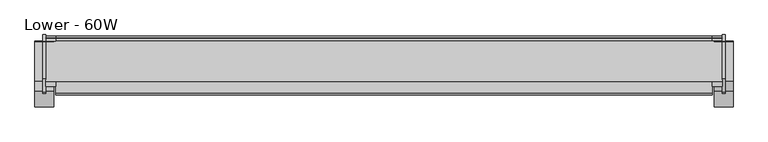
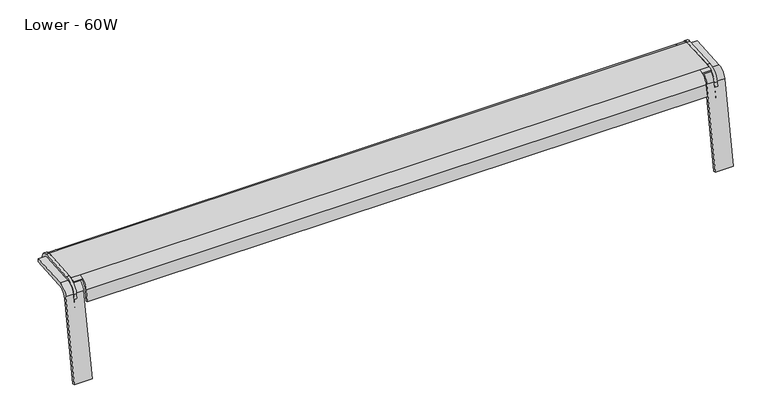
"""IFC4 building model written with IfcOpenShell, lengths in millimetres: furniture geometry, Steelcase Turnstone - Bivi - Accessories - Footshelf : Lower - 60W."""

from ifc_helpers import new_model, si_unit, point, frame, frame_2d, origin, place, context, project, spatial, polyline, circle_curve, trimmed, segment, composite_curve, outline, extrude, source, transform, mapped, element, save
from ifc_brep_helpers import plane_surface, cylinder_surface, revolved_surface, advanced_brep


def lower_60w_76b18c54(model_context):
    return source(origin(), model_context, "Body", "SolidModel", [
        advanced_brep(
        [(3.8089258, -349.7007928, 225.2598813), (3.8089258, -347.9860524, 241.5745471), (3.8089258, -355.8408855, 249.7457315), (3.8089258, -443.2925363, 244.0318234), (3.8089258, -454.2428859, 240.8854416), (3.8089258, -456.4013878, 245.1785525), (3.8089258, -445.8509343, 248.0480858), (3.8089258, -354.5223353, 254.0153056), (3.8089258, -343.7814901, 242.8418758), (3.8089258, -345.6739167, 224.8366396), (1520.1910742, -345.6739167, 224.8366396), (1520.1910742, -349.7007928, 225.2598813), (25.4029566, -343.7814901, 242.8418758), (1498.5970434, -343.7814901, 242.8418758), (1520.1910742, -343.7814901, 242.8418758), (25.4029566, -354.5223353, 254.0153056), (25.4029566, -445.8509343, 248.0480858), (1498.5970434, -445.8509343, 248.0480858), (1520.1910742, -445.8509343, 248.0480858), (1520.1910742, -354.5223353, 254.0153056), (1498.5970434, -354.5223353, 254.0153056), (25.4029566, -456.4013878, 245.1785525), (25.4029566, -443.2925363, 244.0318234), (25.4029566, -454.2428859, 240.8854416), (25.4029566, -355.8408855, 249.7457315), (1498.5970434, -355.8408855, 249.7457315), (1520.1910742, -355.8408855, 249.7457315), (1520.1910742, -443.2925363, 244.0318234), (1498.5970434, -443.2925363, 244.0318234), (25.4029566, -347.9860524, 241.5745471), (1520.1910742, -347.9860524, 241.5745471), (1498.5970434, -347.9860524, 241.5745471), (1520.1910742, -456.4013878, 245.1785525), (1520.1910742, -454.2428859, 240.8854416), (1498.5970434, -456.4013878, 245.1785525), (1498.5970434, -454.2428859, 240.8854416), (1498.5970434, -471.1171503, 225.402562), (1498.5970434, -475.8257425, 198.6988086), (1498.5970434, -472.1069682, 198.1098126), (1498.5970434, -467.8983227, 221.9782273), (25.4029566, -467.8983227, 221.9782273), (25.4029566, -472.1069682, 198.1098126), (25.4029566, -475.8257425, 198.6988086), (25.4029566, -471.1171503, 225.402562)],
        [
            (0, 1),
            (1, 2, circle_curve(frame((3.8089258, -355.3576201, 242.3493301), z_axis=(1.0, 0.0, 0.0), x_axis=(0.0, 1.0, 0.0)), 7.4121724)),
            (2, 3),
            (3, 4, circle_curve(frame((3.8089258, -441.5480229, 217.3319585), z_axis=(1.0, 0.0, 0.0), x_axis=(0.0, 1.0, 0.0)), 26.7567957)),
            (4, 5),
            (5, 6, circle_curve(frame((3.8089258, -444.0595974, 220.6315854), z_axis=(-1.0, 0.0, 0.0), x_axis=(0.0, 1.0, 0.0)), 27.4749592)),
            (6, 7),
            (7, 8, circle_curve(frame((3.8089258, -353.8615092, 243.9013285), z_axis=(-1.0, 0.0, 0.0), x_axis=(0.0, 1.0, 0.0)), 10.1355426)),
            (8, 9),
            (9, 0),
            (9, 10),
            (10, 11),
            (11, 0),
            (8, 12),
            (12, 13),
            (13, 14),
            (14, 10),
            (7, 15),
            (15, 12, circle_curve(frame((25.4029566, -353.8615092, 243.9013285), z_axis=(-1.0, 0.0, 0.0), x_axis=(0.0, 1.0, 0.0)), 10.1355426)),
            (6, 16),
            (16, 17),
            (17, 18),
            (18, 19),
            (19, 20),
            (20, 15),
            (5, 21),
            (21, 16, circle_curve(frame((25.4029566, -444.0595974, 220.6315854), z_axis=(-1.0, 0.0, 0.0), x_axis=(0.0, 1.0, 0.0)), 27.4749592)),
            (3, 22),
            (22, 23, circle_curve(frame((25.4029566, -441.5480229, 217.3319585), z_axis=(1.0, 0.0, 0.0), x_axis=(0.0, 1.0, 0.0)), 26.7567957)),
            (23, 4),
            (2, 24),
            (24, 25),
            (25, 26),
            (26, 27),
            (27, 28),
            (28, 22),
            (1, 29),
            (29, 24, circle_curve(frame((25.4029566, -355.3576201, 242.3493301), z_axis=(1.0, 0.0, 0.0), x_axis=(0.0, 1.0, 0.0)), 7.4121724)),
            (11, 30),
            (30, 31),
            (31, 29),
            (23, 21),
            (14, 19, circle_curve(frame((1520.1910742, -353.8615092, 243.9013285), z_axis=(1.0, 0.0, 0.0), x_axis=(0.0, 1.0, 0.0)), 10.1355426)),
            (18, 32, circle_curve(frame((1520.1910742, -444.0595974, 220.6315854), z_axis=(1.0, 0.0, 0.0), x_axis=(0.0, 1.0, 0.0)), 27.4749592)),
            (32, 33),
            (33, 27, circle_curve(frame((1520.1910742, -441.5480229, 217.3319585), z_axis=(-1.0, 0.0, 0.0), x_axis=(0.0, 1.0, 0.0)), 26.7567957)),
            (26, 30, circle_curve(frame((1520.1910742, -355.3576201, 242.3493301), z_axis=(-1.0, 0.0, 0.0), x_axis=(0.0, 1.0, 0.0)), 7.4121724)),
            (13, 20, circle_curve(frame((1498.5970434, -353.8615092, 243.9013285), z_axis=(1.0, 0.0, 0.0), x_axis=(0.0, 1.0, 0.0)), 10.1355426)),
            (17, 34, circle_curve(frame((1498.5970434, -444.0595974, 220.6315854), z_axis=(1.0, 0.0, 0.0), x_axis=(0.0, 1.0, 0.0)), 27.4749592)),
            (34, 32),
            (33, 35),
            (35, 28, circle_curve(frame((1498.5970434, -441.5480229, 217.3319585), z_axis=(-1.0, 0.0, 0.0), x_axis=(0.0, 1.0, 0.0)), 26.7567957)),
            (25, 31, circle_curve(frame((1498.5970434, -355.3576201, 242.3493301), z_axis=(-1.0, 0.0, 0.0), x_axis=(0.0, 1.0, 0.0)), 7.4121724)),
            (34, 35),
            (36, 37),
            (37, 38),
            (38, 39),
            (39, 35, circle_curve(frame((1498.5970434, -441.5480229, 217.3319585), z_axis=(-1.0, 0.0, 0.0), x_axis=(0.0, 1.0, 0.0)), 26.7567957)),
            (34, 36, circle_curve(frame((1498.5970434, -444.0595974, 220.6315854), z_axis=(1.0, 0.0, 0.0), x_axis=(0.0, 1.0, 0.0)), 27.4749592)),
            (40, 41),
            (41, 42),
            (42, 43),
            (43, 21, circle_curve(frame((25.4029566, -444.0595974, 220.6315854), z_axis=(-1.0, 0.0, 0.0), x_axis=(0.0, 1.0, 0.0)), 27.4749592)),
            (23, 40, circle_curve(frame((25.4029566, -441.5480229, 217.3319585), z_axis=(1.0, 0.0, 0.0), x_axis=(0.0, 1.0, 0.0)), 26.7567957)),
            (43, 36),
            (42, 37),
            (41, 38),
            (40, 39),
        ],
        [
            plane_surface(frame((3.8089258, -345.6739167, 224.8366396), z_axis=(-1.0, 0.0, 0.0), x_axis=(0.0, -0.9945218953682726, 0.10452846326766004))),
            plane_surface(frame((25.4029566, -349.7007928, 225.2598813), z_axis=(0.0, -0.10452846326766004, -0.9945218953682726), x_axis=(-1.0, 0.0, 0.0))),
            plane_surface(frame((25.4029566, -345.6739167, 224.8366396), z_axis=(0.0, 0.9945218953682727, -0.1045284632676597), x_axis=(-1.0, 0.0, 0.0))),
            cylinder_surface(frame((3.8089258, -353.8615092, 243.9013285), z_axis=(1.0, 0.0, 0.0), x_axis=(0.0, 1.0, 0.0)), 10.1355426),
            plane_surface(frame((25.4029566, -354.5223353, 254.0153056), z_axis=(0.0, -0.06519889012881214, 0.9978722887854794), x_axis=(-1.0, 0.0, 0.0))),
            cylinder_surface(frame((3.8089258, -444.0595974, 220.6315854), z_axis=(1.0, 0.0, 0.0), x_axis=(0.0, 1.0, 0.0)), 27.4749592),
            revolved_surface(polyline([(3.8089258, -414.7912272, 217.3319585), (25.4029566, -414.7912272, 217.3319585)]), (3.8089258, -441.5480229, 217.3319585), (-1.0, 0.0, 0.0)),
            plane_surface(frame((25.4029566, -443.2925363, 244.0318234), z_axis=(0.0, 0.065198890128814, -0.9978722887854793), x_axis=(-1.0, 0.0, 0.0))),
            revolved_surface(polyline([(3.8089258, -347.94544770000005, 242.3493301), (25.4029566, -347.94544770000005, 242.3493301)]), (3.8089258, -355.3576201, 242.3493301), (-1.0, 0.0, 0.0)),
            plane_surface(frame((25.4029566, -347.9860524, 241.5745471), z_axis=(0.0, -0.9945218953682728, 0.10452846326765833), x_axis=(-1.0, 0.0, 0.0))),
            plane_surface(frame((25.4029566, -456.4013878, 245.1785525), z_axis=(0.0, -0.8934305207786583, -0.44920140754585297), x_axis=(-1.0, 0.0, 0.0))),
            plane_surface(frame((1520.1910742, -349.7007928, 225.2598813), z_axis=(1.0, 0.0, 0.0), x_axis=(0.0, -0.10452846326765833, -0.9945218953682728))),
            cylinder_surface(frame((1520.1910742, -353.8615092, 243.9013285), z_axis=(-1.0, 0.0, 0.0), x_axis=(0.0, 1.0, 0.0)), 10.1355426),
            cylinder_surface(frame((1520.1910742, -444.0595974, 220.6315854), z_axis=(-1.0, 0.0, 0.0), x_axis=(0.0, 1.0, 0.0)), 27.4749592),
            revolved_surface(polyline([(1520.1910742, -414.7912272, 217.3319585), (1498.5970434, -414.7912272, 217.3319585)]), (1520.1910742, -441.5480229, 217.3319585), (1.0, 0.0, 0.0)),
            revolved_surface(polyline([(1520.1910742, -347.94544770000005, 242.3493301), (1498.5970434, -347.94544770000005, 242.3493301)]), (1520.1910742, -355.3576201, 242.3493301), (1.0, 0.0, 0.0)),
            plane_surface(frame((1498.5970434, -454.2428859, 240.8854416), z_axis=(0.0, -0.8934305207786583, -0.44920140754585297), x_axis=(1.0, 0.0, 0.0))),
            plane_surface(frame((1498.5970434, -345.6739167, 224.8366396), z_axis=(1.0, 0.0, 0.0), x_axis=(0.0, 0.9945218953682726, -0.10452846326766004))),
            plane_surface(frame((25.4029566, -345.6739167, 224.8366396), z_axis=(-1.0, 0.0, 0.0), x_axis=(0.0, -0.9945218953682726, 0.10452846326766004))),
            cylinder_surface(frame((25.4029566, -353.8615092, 243.9013285), z_axis=(1.0, 0.0, 0.0), x_axis=(0.0, 1.0, 0.0)), 10.1355426),
            cylinder_surface(frame((25.4029566, -444.0595974, 220.6315854), z_axis=(1.0, 0.0, 0.0), x_axis=(0.0, 1.0, 0.0)), 27.4749592),
            plane_surface(frame((1498.5970434, -471.1171503, 225.402562), z_axis=(0.0, -0.9848077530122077, 0.173648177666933), x_axis=(-1.0, 0.0, 0.0))),
            plane_surface(frame((1498.5970434, -475.8257425, 198.6988086), z_axis=(0.0, -0.15643446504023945, -0.9876883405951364), x_axis=(-1.0, 0.0, 0.0))),
            plane_surface(frame((1498.5970434, -472.1069682, 198.1098126), z_axis=(0.0, 0.9848077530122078, -0.17364817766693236), x_axis=(-1.0, 0.0, 0.0))),
            revolved_surface(polyline([(25.4029566, -414.7912272, 217.3319585), (1498.5970434, -414.7912272, 217.3319585)]), (25.4029566, -441.5480229, 217.3319585), (-1.0, 0.0, 0.0)),
            revolved_surface(polyline([(25.4029566, -347.94544770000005, 242.3493301), (1498.5970434, -347.94544770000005, 242.3493301)]), (25.4029566, -355.3576201, 242.3493301), (-1.0, 0.0, 0.0)),
        ],
        [
            (0, [[1, 2, 3, 4, 5, 6, 7, 8, 9, 10]]),
            (1, [[-10, 11, 12, 13]]),
            (2, [[-11, -9, 14, 15, 16, 17]]),
            (3, [[-8, 18, 19, -14]]),
            (4, [[-7, 20, 21, 22, 23, 24, 25, -18]]),
            (5, [[-6, 26, 27, -20]]),
            (6, [[-4, 28, 29, 30]]),
            (7, [[-3, 31, 32, 33, 34, 35, 36, -28]]),
            (8, [[-2, 37, 38, -31]]),
            (9, [[-1, -13, 39, 40, 41, -37]]),
            (10, [[-5, -30, 42, -26]]),
            (11, [[-12, -17, 43, -23, 44, 45, 46, -34, 47, -39]]),
            (12, [[-43, -16, 48, -24]]),
            (13, [[-44, -22, 49, 50]]),
            (14, [[-46, 51, 52, -35]]),
            (15, [[-47, -33, 53, -40]]),
            (16, [[-45, -50, 54, -51]]),
            (17, [[55, 56, 57, 58, -54, 59]]),
            (18, [[60, 61, 62, 63, -42, 64]]),
            (19, [[-15, -19, -25, -48]]),
            (20, [[-21, -27, -63, 65, -59, -49]]),
            (21, [[-55, -65, -62, 66]]),
            (22, [[-56, -66, -61, 67]]),
            (23, [[-57, -67, -60, 68]]),
            (24, [[-68, -64, -29, -36, -52, -58]]),
            (25, [[-32, -38, -41, -53]]),
        ],
    ),
        extrude(outline(composite_curve([segment(polyline([(-502.7882548, 23.0795006), (-467.6286114, 222.4797472)]), True, "CONTINUOUS"), segment(trimmed(circle_curve(frame_2d((-442.6144944, 218.0690835)), 25.4), [point((-467.6286114, 222.4797472))], [point((-444.3863089, 243.4072104))], False, "CARTESIAN"), True, "CONTINUOUS"), segment(polyline([(-444.3863089, 243.4072104), (-355.0660173, 249.6530936), (-354.5108168, 241.713356), (-439.4422182, 235.7743738)]), True, "CONTINUOUS"), segment(trimmed(circle_curve(frame_2d((-437.6704038, 210.4362469)), 25.4), [point((-439.4422182, 235.7743738))], [point((-462.6845207, 214.8469107))], True, "CARTESIAN"), True, "CONTINUOUS"), segment(polyline([(-462.6845207, 214.8469107), (-496.6879548, 22.0038531), (-502.7882548, 23.0795006)]), True, "CONTINUOUS")], self_intersect=False)), frame((1503.0432837, 0.0, 0.0), z_axis=(1.0, 0.0, 0.0), x_axis=(0.0, 1.0, 0.0)), (0.0, 0.0, 1.0), 41.9137207),
        extrude(outline(composite_curve([segment(polyline([(-351.0134455, 227.2247298), (-438.2310578, 205.4789367)]), True, "CONTINUOUS"), segment(trimmed(circle_curve(frame_2d((-425.8853939, 155.9631832)), 51.0316105), [point((-438.2310578, 205.4789367))], [point((-467.9594758, 184.8421876))], True, "CARTESIAN"), True, "CONTINUOUS"), segment(polyline([(-467.9594758, 184.8421876), (-474.2083536, 184.8421876), (-468.3520154, 221.8176516)]), True, "CONTINUOUS"), segment(trimmed(circle_curve(frame_2d((-436.025868, 216.6976929)), 32.7290969), [point((-468.3520154, 221.8176516))], [point((-438.3089344, 249.3470633))], False, "CARTESIAN"), True, "CONTINUOUS"), segment(polyline([(-438.3089344, 249.3470633), (-355.4351327, 255.142164)]), True, "CONTINUOUS"), segment(trimmed(circle_curve(frame_2d((-354.4455186, 240.9900232)), 14.1866989), [point((-355.4351327, 255.142164))], [point((-351.0134455, 227.2247298))], False, "CARTESIAN"), True, "CONTINUOUS")], self_intersect=False)), frame((1520.1910742, 0.0, 0.0), z_axis=(1.0, 0.0, 0.0), x_axis=(0.0, 1.0, 0.0)), (0.0, 0.0, 1.0), 6.8553955),
        extrude(outline(composite_curve([segment(polyline([(-502.7882548, 23.0795006), (-467.6286114, 222.4797472)]), True, "CONTINUOUS"), segment(trimmed(circle_curve(frame_2d((-442.6144944, 218.0690835)), 25.4), [point((-467.6286114, 222.4797472))], [point((-444.3863089, 243.4072104))], False, "CARTESIAN"), True, "CONTINUOUS"), segment(polyline([(-444.3863089, 243.4072104), (-355.0660173, 249.6530936), (-354.5108168, 241.713356), (-439.4422182, 235.7743738)]), True, "CONTINUOUS"), segment(trimmed(circle_curve(frame_2d((-437.6704038, 210.4362469)), 25.4), [point((-439.4422182, 235.7743738))], [point((-462.6845207, 214.8469107))], True, "CARTESIAN"), True, "CONTINUOUS"), segment(polyline([(-462.6845207, 214.8469107), (-496.6879548, 22.0038531), (-502.7882548, 23.0795006)]), True, "CONTINUOUS")], self_intersect=False)), frame((-20.9570044, 0.0, 0.0), z_axis=(1.0, 0.0, 0.0), x_axis=(0.0, 1.0, 0.0)), (0.0, 0.0, 1.0), 41.9137207),
        extrude(outline(composite_curve([segment(polyline([(-351.0134455, 227.2247298), (-438.2310578, 205.4789367)]), True, "CONTINUOUS"), segment(trimmed(circle_curve(frame_2d((-425.8853939, 155.9631832)), 51.0316105), [point((-438.2310578, 205.4789367))], [point((-467.9594758, 184.8421876))], True, "CARTESIAN"), True, "CONTINUOUS"), segment(polyline([(-467.9594758, 184.8421876), (-474.2083536, 184.8421876), (-468.3520154, 221.8176516)]), True, "CONTINUOUS"), segment(trimmed(circle_curve(frame_2d((-436.025868, 216.6976929)), 32.7290969), [point((-468.3520154, 221.8176516))], [point((-438.3089344, 249.3470633))], False, "CARTESIAN"), True, "CONTINUOUS"), segment(polyline([(-438.3089344, 249.3470633), (-355.4351327, 255.142164)]), True, "CONTINUOUS"), segment(trimmed(circle_curve(frame_2d((-354.4455186, 240.9900232)), 14.1866989), [point((-355.4351327, 255.142164))], [point((-351.0134455, 227.2247298))], False, "CARTESIAN"), True, "CONTINUOUS")], self_intersect=False)), frame((-3.0464697, 0.0, 0.0), z_axis=(1.0, 0.0, 0.0), x_axis=(0.0, 1.0, 0.0)), (0.0, 0.0, 1.0), 6.8553955),
    ])


if __name__ == "__main__":
    model = new_model("IFC4")
    model_context = context("Model", 3, world=origin())
    ifc_project = project(units=[si_unit("LENGTHUNIT", "METRE", prefix="MILLI")], contexts=[model_context])
    site = spatial("IfcSite", under=ifc_project)
    building = spatial("IfcBuilding", under=site)
    placement = place(None, origin())
    lower_60w_shape = lower_60w_76b18c54(model_context)
    element("IfcFurniture", 1, ObjectType="Steelcase Turnstone - Bivi - Accessories - Footshelf : Lower - 60W", at=placement, inside=building, context=model_context, shape_type="MappedRepresentation", body=[
        mapped(lower_60w_shape, transform((0.0, 0.0, 0.0), x_axis=(1.0, 0.0, 0.0), y_axis=(0.0, 1.0, 0.0), z_axis=(0.0, 0.0, 1.0))),
    ])
    save(model, "model.ifc")
